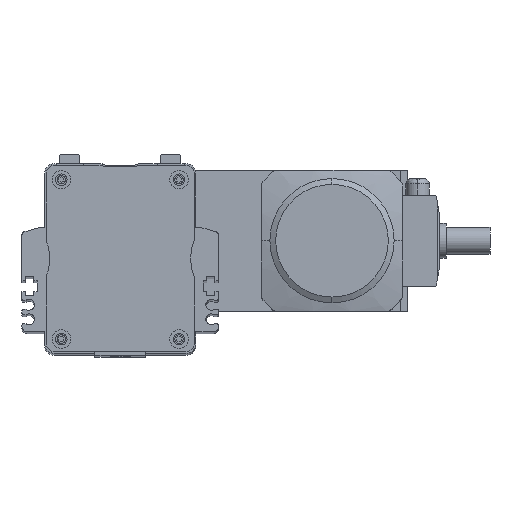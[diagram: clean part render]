
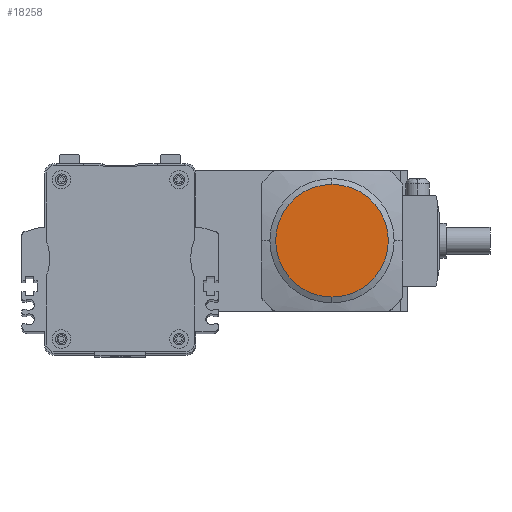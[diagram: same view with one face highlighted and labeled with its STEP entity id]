
A CAD part, top view. The second image highlights one B-rep face of the part: STEP entity #18258.
In plain terms, the highlighted planar face has unit normal (0, 0, 1).
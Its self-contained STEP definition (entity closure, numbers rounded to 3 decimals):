
#5079 = AXIS2_PLACEMENT_3D ( 'NONE', #5142, #5140, #5139 ) ;
#5085 = PLANE ( 'NONE',  #5079 ) ;
#5090 = FACE_OUTER_BOUND ( 'NONE', #18284, .T. ) ;
#5139 = DIRECTION ( 'NONE',  ( 0., 1., 0. ) ) ;
#5140 = DIRECTION ( 'NONE',  ( 0., 0., 1. ) ) ;
#5142 = CARTESIAN_POINT ( 'NONE',  ( 241.815, -4.031, 68. ) ) ;
#5783 = CIRCLE ( 'NONE', #5816, 16.75 ) ;
#5809 = DIRECTION ( 'NONE',  ( 0., -1., 0. ) ) ;
#5810 = DIRECTION ( 'NONE',  ( 0., 0., -1. ) ) ;
#5811 = CARTESIAN_POINT ( 'NONE',  ( 250.19, -4.031, 68. ) ) ;
#5816 = AXIS2_PLACEMENT_3D ( 'NONE', #5811, #5810, #5809 ) ;
#10329 = EDGE_CURVE ( 'NONE', #10551, #10935, #25745, .T. ) ;
#10551 = VERTEX_POINT ( 'NONE', #25847 ) ;
#10935 = VERTEX_POINT ( 'NONE', #26021 ) ;
#18255 = ORIENTED_EDGE ( 'NONE', *, *, #18445, .F. ) ;
#18258 = ADVANCED_FACE ( 'NONE', ( #5090 ), #5085, .T. ) ;
#18284 = EDGE_LOOP ( 'NONE', ( #18444, #18255 ) ) ;
#18444 = ORIENTED_EDGE ( 'NONE', *, *, #10329, .F. ) ;
#18445 = EDGE_CURVE ( 'NONE', #10935, #10551, #5783, .T. ) ;
#25728 = DIRECTION ( 'NONE',  ( 0., -1., 0. ) ) ;
#25729 = DIRECTION ( 'NONE',  ( 0., 0., -1. ) ) ;
#25732 = AXIS2_PLACEMENT_3D ( 'NONE', #25741, #25729, #25728 ) ;
#25741 = CARTESIAN_POINT ( 'NONE',  ( 250.19, -4.031, 68. ) ) ;
#25745 = CIRCLE ( 'NONE', #25732, 16.75 ) ;
#25847 = CARTESIAN_POINT ( 'NONE',  ( 250.19, -20.781, 68. ) ) ;
#26021 = CARTESIAN_POINT ( 'NONE',  ( 250.19, 12.719, 68. ) ) ;
